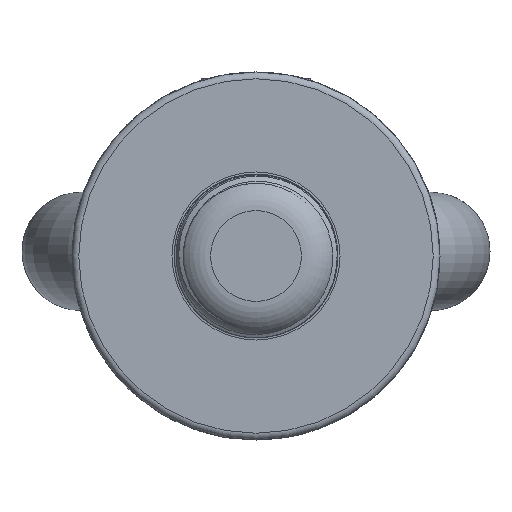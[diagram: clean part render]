
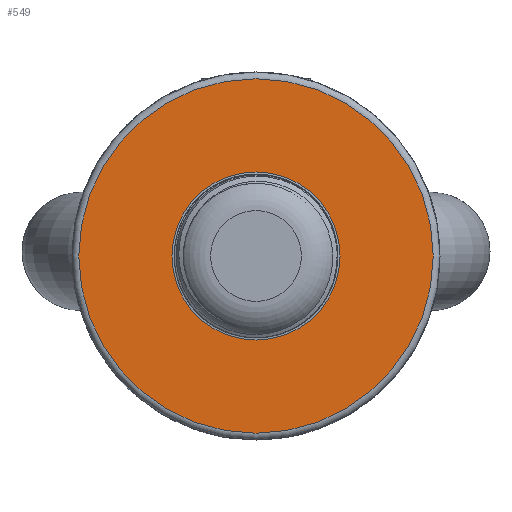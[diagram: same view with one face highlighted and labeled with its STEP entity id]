
A CAD part, front view. The second image highlights one B-rep face of the part: STEP entity #549.
In plain terms, the highlighted planar face has unit normal (0, -1, 0).
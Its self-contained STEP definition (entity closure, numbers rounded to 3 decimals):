
#333=FACE_BOUND('',#1385,.T.);
#334=FACE_BOUND('',#1386,.T.);
#549=ADVANCED_FACE('',(#333,#334),#759,.F.);
#759=PLANE('',#6074);
#1385=EDGE_LOOP('',(#3250));
#1386=EDGE_LOOP('',(#3251));
#2360=CIRCLE('',#6071,39.);
#2361=CIRCLE('',#6073,18.5);
#3250=ORIENTED_EDGE('',*,*,#5120,.F.);
#3251=ORIENTED_EDGE('',*,*,#5119,.T.);
#4440=VERTEX_POINT('',#11544);
#4441=VERTEX_POINT('',#11547);
#5119=EDGE_CURVE('',#4440,#4440,#2360,.T.);
#5120=EDGE_CURVE('',#4441,#4441,#2361,.T.);
#6071=AXIS2_PLACEMENT_3D('',#11543,#6783,#6784);
#6073=AXIS2_PLACEMENT_3D('',#11546,#6787,#6788);
#6074=AXIS2_PLACEMENT_3D('',#11548,#6789,#6790);
#6783=DIRECTION('',(0.,-1.,0.));
#6784=DIRECTION('',(0.,0.,-1.));
#6787=DIRECTION('',(0.,-1.,0.));
#6788=DIRECTION('',(0.,0.,-1.));
#6789=DIRECTION('',(0.,1.,0.));
#6790=DIRECTION('',(0.,0.,1.));
#11543=CARTESIAN_POINT('',(0.,-12.53,0.));
#11544=CARTESIAN_POINT('',(0.,-12.53,-39.));
#11546=CARTESIAN_POINT('',(0.,-12.53,0.));
#11547=CARTESIAN_POINT('',(0.,-12.53,-18.5));
#11548=CARTESIAN_POINT('',(0.,-12.53,-39.));
